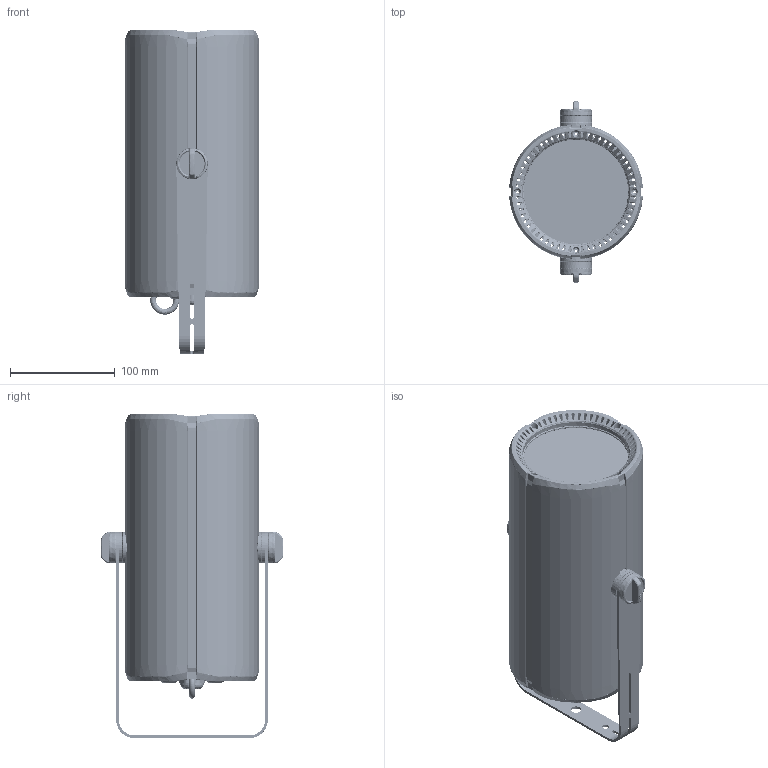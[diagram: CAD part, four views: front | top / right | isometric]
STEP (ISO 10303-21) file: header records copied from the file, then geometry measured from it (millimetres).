
FILE_DESCRIPTION(('HOOPS Exchange Step'),'2;1');
FILE_NAME('E:\cdb\hoops_acs\acs\9788\78391\012826-4-Light Fixture.step','2024-06-25T10:48:32+02:00',('caddok'),('Unknown organisation'),'HOOPS Exchange 2024.0','HOOPS Exchange','Unknown authorisation');
FILE_SCHEMA( ('AP242_MANAGED_MODEL_BASED_3D_ENGINEERING_MIM_LF {1 0 10303 442 1 1 4 }') );
Length unit declared in the file: millimetre
Products named in the file (2): Standard; 012826-4-Light Fixture
Assembly tree (1 placements, depth 2):
  012826-4-Light Fixture
    Standard
Bounding box: 127.64 x 174.2 x 309 mm (x, y, z)
Volume: 562672.8 mm3; surface area: 530095.8 mm2
Topology: 57 solids, 57 shells, 8593 faces, 22617 edges, 13964 vertices
Faces by surface type: bspline 3694, plane 2423, cone 1243, cylinder 1103, extrusion 130
Full cylindrical faces by diameter (mm): 1.2 x3, 1.309 x4, 2.2 x6, 2.285 x2, 2.3 x6, 2.7 x1, 3.2 x2, 3.3 x6, 3.5 x40, 4 x1, 4.3 x8, 4.5 x4, 5 x8, 5.2 x2, 5.5 x3, 6 x2, 6.5 x10, 7.7 x3, 8 x2, 9.5 x2, 10 x3, 10.5 x1, 11.5 x1, 12.2 x1, 14.8 x4, 15.5 x2, 18 x4, 20.3 x1, 21 x1, 22 x2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
Entity records: 688582 total; most frequent: CARTESIAN_POINT 512879, ORIENTED_EDGE 44960, DIRECTION 23823, EDGE_CURVE 22480, VERTEX_POINT 13962, B_SPLINE_CURVE_WITH_KNOTS 12097, EDGE_LOOP 8998, FACE_BOUND 8998
